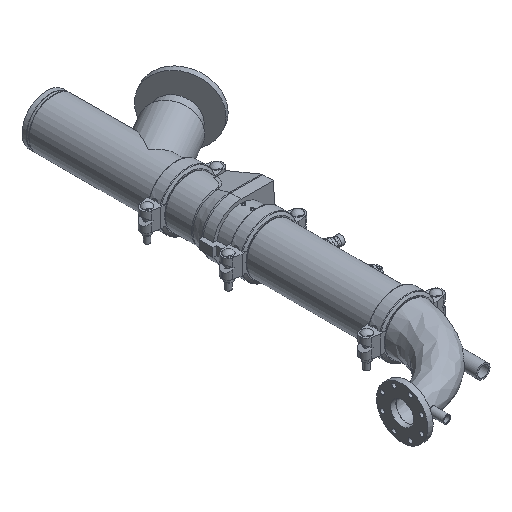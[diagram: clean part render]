
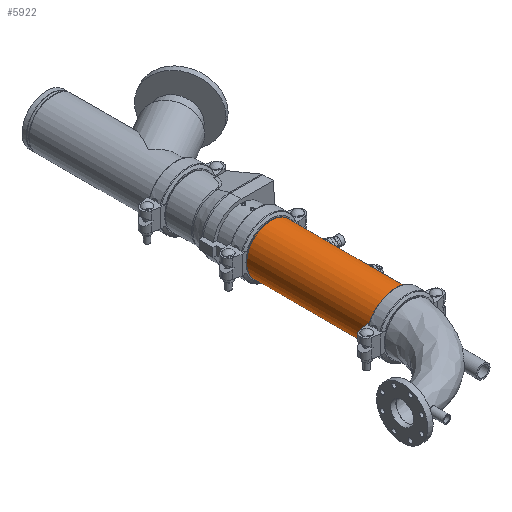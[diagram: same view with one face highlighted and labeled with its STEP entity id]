
A CAD part, isometric view. The second image highlights one B-rep face of the part: STEP entity #5922.
In plain terms, the highlighted cylindrical face has radius 109.537 mm (diameter 219.075 mm), a full revolution.
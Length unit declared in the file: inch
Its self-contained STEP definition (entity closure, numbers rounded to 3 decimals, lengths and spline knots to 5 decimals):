
#179=LINE('',#8992,#602);
#602=VECTOR('',#7157,4.3125);
#1025=CYLINDRICAL_SURFACE('',#6428,4.3125);
#1218=FACE_OUTER_BOUND('',#1547,.T.);
#1547=EDGE_LOOP('',(#3721,#3722,#3723,#3724,#3725,#3726));
#1950=CIRCLE('',#6426,4.3125);
#1951=CIRCLE('',#6427,4.3125);
#1952=CIRCLE('',#6429,4.3125);
#1953=CIRCLE('',#6430,4.3125);
#2291=VERTEX_POINT('',#8983);
#2292=VERTEX_POINT('',#8984);
#2293=VERTEX_POINT('',#8988);
#2294=VERTEX_POINT('',#8989);
#2867=EDGE_CURVE('',#2291,#2292,#1950,.T.);
#2868=EDGE_CURVE('',#2292,#2291,#1951,.T.);
#2869=EDGE_CURVE('',#2293,#2294,#1952,.T.);
#2870=EDGE_CURVE('',#2294,#2293,#1953,.T.);
#2871=EDGE_CURVE('',#2294,#2292,#179,.T.);
#3721=ORIENTED_EDGE('',*,*,#2869,.F.);
#3722=ORIENTED_EDGE('',*,*,#2870,.F.);
#3723=ORIENTED_EDGE('',*,*,#2871,.T.);
#3724=ORIENTED_EDGE('',*,*,#2868,.T.);
#3725=ORIENTED_EDGE('',*,*,#2867,.T.);
#3726=ORIENTED_EDGE('',*,*,#2871,.F.);
#5922=ADVANCED_FACE('',(#1218),#1025,.T.);
#6426=AXIS2_PLACEMENT_3D('',#8985,#7147,#7148);
#6427=AXIS2_PLACEMENT_3D('',#8986,#7149,#7150);
#6428=AXIS2_PLACEMENT_3D('',#8987,#7151,#7152);
#6429=AXIS2_PLACEMENT_3D('',#8990,#7153,#7154);
#6430=AXIS2_PLACEMENT_3D('',#8991,#7155,#7156);
#7147=DIRECTION('center_axis',(1.,0.,0.));
#7148=DIRECTION('ref_axis',(0.,0.,-1.));
#7149=DIRECTION('center_axis',(1.,0.,0.));
#7150=DIRECTION('ref_axis',(0.,0.,-1.));
#7151=DIRECTION('center_axis',(1.,0.,0.));
#7152=DIRECTION('ref_axis',(0.,1.,0.));
#7153=DIRECTION('center_axis',(1.,0.,0.));
#7154=DIRECTION('ref_axis',(0.,0.,-1.));
#7155=DIRECTION('center_axis',(1.,0.,0.));
#7156=DIRECTION('ref_axis',(0.,0.,-1.));
#7157=DIRECTION('',(-1.,0.,0.));
#8983=CARTESIAN_POINT('',(-10.796,4.3125,0.));
#8984=CARTESIAN_POINT('',(-10.796,-4.3125,0.));
#8985=CARTESIAN_POINT('Origin',(-10.796,0.,0.));
#8986=CARTESIAN_POINT('Origin',(-10.796,0.,0.));
#8987=CARTESIAN_POINT('Origin',(0.,0.,0.));
#8988=CARTESIAN_POINT('',(10.796,4.3125,0.));
#8989=CARTESIAN_POINT('',(10.796,-4.3125,0.));
#8990=CARTESIAN_POINT('Origin',(10.796,0.,0.));
#8991=CARTESIAN_POINT('Origin',(10.796,0.,0.));
#8992=CARTESIAN_POINT('',(0.,-4.3125,0.));
